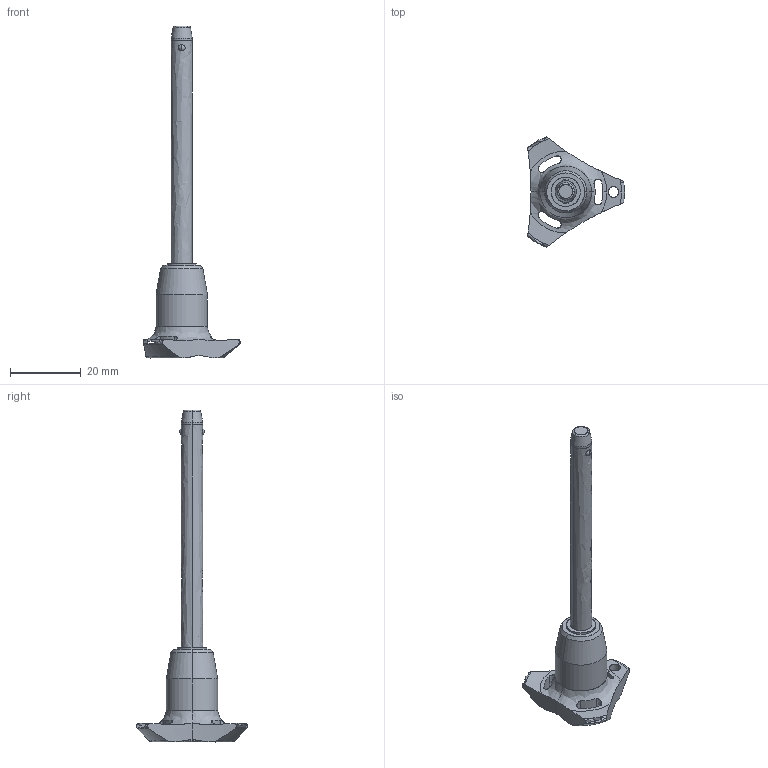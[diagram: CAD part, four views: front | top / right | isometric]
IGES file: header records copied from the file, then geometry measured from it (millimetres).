
Start section: SolidWorks IGES file using analytic representation for surfaces
Global section: file name: C:\Users\ianosborn\Desktop\QR1716_v2\QR1716_v2_20251114_IGES\QR1716.M06-060-T.igs; native system: SolidWorks 2019; preprocessor: SolidWorks 2019; author: IanOsborn; date: 251113.102434; units: millimetre
Bounding box: 27.4 x 31.31 x 93.7 mm (x, y, z)
Surface area: 3684 mm2 (no closed solid volume)
Topology: 0 solids, 0 shells, 69 faces, 1323 edges, 1304 vertices
Faces by surface type: revolution 52, bspline 17
